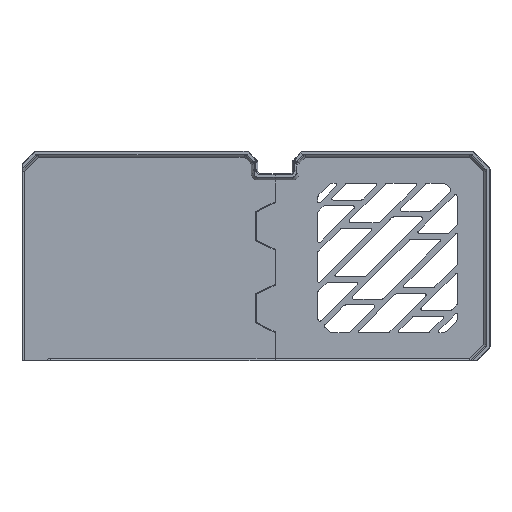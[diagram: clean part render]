
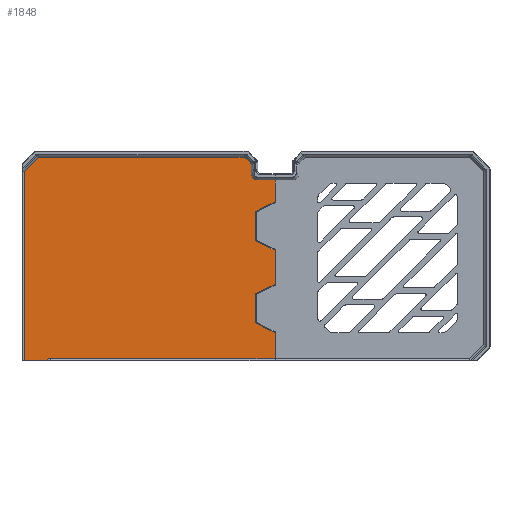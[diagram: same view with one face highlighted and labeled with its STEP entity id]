
A CAD part, top view. The second image highlights one B-rep face of the part: STEP entity #1848.
In plain terms, the highlighted planar face has unit normal (0, 0, 1).
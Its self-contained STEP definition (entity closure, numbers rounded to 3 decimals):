
#26=DIRECTION('',(-0.894,0.447,0.));
#27=VECTOR('',#26,11.655);
#28=CARTESIAN_POINT('',(135.3,59.126,-4.));
#29=LINE('',#28,#27);
#30=DIRECTION('',(0.,1.,0.));
#31=VECTOR('',#30,18.051);
#32=CARTESIAN_POINT('',(135.3,41.074,-4.));
#33=LINE('',#32,#31);
#34=DIRECTION('',(0.894,0.447,0.));
#35=VECTOR('',#34,11.655);
#36=CARTESIAN_POINT('',(124.876,35.862,-4.));
#37=LINE('',#36,#35);
#38=DIRECTION('',(0.,1.,0.));
#39=VECTOR('',#38,15.524);
#40=CARTESIAN_POINT('',(124.876,20.338,-4.));
#41=LINE('',#40,#39);
#42=DIRECTION('',(-0.894,0.447,0.));
#43=VECTOR('',#42,11.655);
#44=CARTESIAN_POINT('',(135.3,15.126,-4.));
#45=LINE('',#44,#43);
#46=DIRECTION('',(0.,1.,0.));
#47=VECTOR('',#46,13.909);
#48=CARTESIAN_POINT('',(135.3,1.217,-4.));
#49=LINE('',#48,#47);
#50=DIRECTION('',(-1.,0.,0.));
#51=VECTOR('',#50,120.81);
#52=CARTESIAN_POINT('',(135.3,1.217,-4.));
#53=LINE('',#52,#51);
#54=CARTESIAN_POINT('',(14.49,1.217,-4.));
#55=CARTESIAN_POINT('',(14.254,1.217,-4.));
#56=CARTESIAN_POINT('',(13.926,1.074,-4.));
#57=CARTESIAN_POINT('',(13.783,0.746,-4.));
#58=CARTESIAN_POINT('',(13.783,0.51,-4.));
#60=DIRECTION('',(0.,-1.,0.));
#61=VECTOR('',#60,0.51);
#62=CARTESIAN_POINT('',(13.783,0.51,-4.));
#63=LINE('',#62,#61);
#64=CARTESIAN_POINT('',(1.217,100.896,-4.));
#65=CARTESIAN_POINT('',(1.217,101.296,-4.));
#66=CARTESIAN_POINT('',(1.359,101.637,-4.));
#67=CARTESIAN_POINT('',(1.641,101.92,-4.));
#69=DIRECTION('',(0.707,0.707,0.));
#70=VECTOR('',#69,9.106);
#71=CARTESIAN_POINT('',(1.641,101.92,-4.));
#72=LINE('',#71,#70);
#73=CARTESIAN_POINT('',(8.08,108.359,-4.));
#74=CARTESIAN_POINT('',(8.363,108.641,-4.));
#75=CARTESIAN_POINT('',(8.704,108.783,-4.));
#76=CARTESIAN_POINT('',(9.104,108.783,-4.));
#78=DIRECTION('',(1.,0.,0.));
#79=VECTOR('',#78,109.592);
#80=CARTESIAN_POINT('',(9.104,108.783,-4.));
#81=LINE('',#80,#79);
#82=CARTESIAN_POINT('',(118.696,108.783,-4.));
#83=CARTESIAN_POINT('',(119.096,108.783,-4.));
#84=CARTESIAN_POINT('',(119.437,108.641,-4.));
#85=CARTESIAN_POINT('',(119.72,108.359,-4.));
#87=DIRECTION('',(0.707,-0.707,0.));
#88=VECTOR('',#87,3.507);
#89=CARTESIAN_POINT('',(119.72,108.359,-4.));
#90=LINE('',#89,#88);
#91=CARTESIAN_POINT('',(122.2,105.879,-4.));
#92=CARTESIAN_POINT('',(122.455,105.624,-4.));
#93=CARTESIAN_POINT('',(122.583,105.315,-4.));
#94=CARTESIAN_POINT('',(122.583,104.954,-4.));
#96=DIRECTION('',(0.,-1.,0.));
#97=VECTOR('',#96,4.954);
#98=CARTESIAN_POINT('',(122.583,104.954,-4.));
#99=LINE('',#98,#97);
#100=CARTESIAN_POINT('',(125.8,100.,-4.));
#101=DIRECTION('',(0.,0.,1.));
#102=DIRECTION('',(-1.,0.,0.));
#103=AXIS2_PLACEMENT_3D('',#100,#101,#102);
#105=DIRECTION('',(1.,0.,0.));
#106=VECTOR('',#105,9.5);
#107=CARTESIAN_POINT('',(125.8,96.783,-4.));
#108=LINE('',#107,#106);
#109=DIRECTION('',(0.,1.,0.));
#110=VECTOR('',#109,11.709);
#111=CARTESIAN_POINT('',(135.3,85.074,-4.));
#112=LINE('',#111,#110);
#113=DIRECTION('',(0.894,0.447,0.));
#114=VECTOR('',#113,11.655);
#115=CARTESIAN_POINT('',(124.876,79.862,-4.));
#116=LINE('',#115,#114);
#117=DIRECTION('',(0.,1.,0.));
#118=VECTOR('',#117,15.524);
#119=CARTESIAN_POINT('',(124.876,64.338,-4.));
#120=LINE('',#119,#118);
#197=DIRECTION('',(1.,0.,0.));
#198=VECTOR('',#197,12.566);
#199=CARTESIAN_POINT('',(1.217,0.,-4.));
#200=LINE('',#199,#198);
#1427=DIRECTION('',(0.,-1.,0.));
#1428=VECTOR('',#1427,100.896);
#1429=CARTESIAN_POINT('',(1.217,100.896,-4.));
#1430=LINE('',#1429,#1428);
#1452=CARTESIAN_POINT('',(1.217,0.,-4.));
#1453=VERTEX_POINT('',#1452);
#1454=CARTESIAN_POINT('',(13.783,0.,
-4.));
#1455=VERTEX_POINT('',#1454);
#1609=CARTESIAN_POINT('',(14.49,1.217,-4.));
#1610=VERTEX_POINT('',#1609);
#1611=CARTESIAN_POINT('',(13.783,0.51,
-4.));
#1612=VERTEX_POINT('',#1611);
#1613=VERTEX_POINT('',#91);
#1614=VERTEX_POINT('',#94);
#1615=CARTESIAN_POINT('',(122.583,100.,-4.));
#1616=VERTEX_POINT('',#1615);
#1617=CARTESIAN_POINT('',(125.8,96.783,-4.));
#1618=VERTEX_POINT('',#1617);
#1619=CARTESIAN_POINT('',(1.217,100.896,-4.));
#1620=VERTEX_POINT('',#1619);
#1621=VERTEX_POINT('',#67);
#1622=CARTESIAN_POINT('',(8.08,108.359,-4.));
#1623=VERTEX_POINT('',#1622);
#1624=VERTEX_POINT('',#76);
#1625=CARTESIAN_POINT('',(118.696,108.783,-4.));
#1626=VERTEX_POINT('',#1625);
#1627=VERTEX_POINT('',#85);
#1693=CARTESIAN_POINT('',(135.3,1.217,-4.));
#1694=VERTEX_POINT('',#1693);
#1701=CARTESIAN_POINT('',(135.3,96.783,-4.));
#1702=VERTEX_POINT('',#1701);
#1703=CARTESIAN_POINT('',(135.3,59.126,-4.));
#1704=CARTESIAN_POINT('',(124.876,64.338,-4.));
#1705=VERTEX_POINT('',#1703);
#1706=VERTEX_POINT('',#1704);
#1707=CARTESIAN_POINT('',(124.876,79.862,-4.));
#1708=VERTEX_POINT('',#1707);
#1709=CARTESIAN_POINT('',(135.3,85.074,-4.));
#1710=VERTEX_POINT('',#1709);
#1711=CARTESIAN_POINT('',(135.3,15.126,-4.));
#1712=CARTESIAN_POINT('',(124.876,20.338,-4.));
#1713=VERTEX_POINT('',#1711);
#1714=VERTEX_POINT('',#1712);
#1715=CARTESIAN_POINT('',(124.876,35.862,-4.));
#1716=VERTEX_POINT('',#1715);
#1717=CARTESIAN_POINT('',(135.3,41.074,-4.));
#1718=VERTEX_POINT('',#1717);
#1796=CARTESIAN_POINT('',(0.,0.,-4.));
#1797=DIRECTION('',(0.,0.,1.));
#1798=DIRECTION('',(1.,0.,0.));
#1799=AXIS2_PLACEMENT_3D('',#1796,#1797,#1798);
#1800=PLANE('',#1799);
#1802=ORIENTED_EDGE('',*,*,#1801,.F.);
#1803=ORIENTED_EDGE('',*,*,#1756,.F.);
#1805=ORIENTED_EDGE('',*,*,#1804,.F.);
#1807=ORIENTED_EDGE('',*,*,#1806,.F.);
#1809=ORIENTED_EDGE('',*,*,#1808,.F.);
#1810=ORIENTED_EDGE('',*,*,#1785,.F.);
#1812=ORIENTED_EDGE('',*,*,#1811,.T.);
#1814=ORIENTED_EDGE('',*,*,#1813,.T.);
#1816=ORIENTED_EDGE('',*,*,#1815,.T.);
#1818=ORIENTED_EDGE('',*,*,#1817,.F.);
#1820=ORIENTED_EDGE('',*,*,#1819,.F.);
#1822=ORIENTED_EDGE('',*,*,#1821,.T.);
#1824=ORIENTED_EDGE('',*,*,#1823,.T.);
#1826=ORIENTED_EDGE('',*,*,#1825,.T.);
#1828=ORIENTED_EDGE('',*,*,#1827,.T.);
#1830=ORIENTED_EDGE('',*,*,#1829,.T.);
#1832=ORIENTED_EDGE('',*,*,#1831,.T.);
#1834=ORIENTED_EDGE('',*,*,#1833,.T.);
#1836=ORIENTED_EDGE('',*,*,#1835,.T.);
#1838=ORIENTED_EDGE('',*,*,#1837,.T.);
#1840=ORIENTED_EDGE('',*,*,#1839,.T.);
#1841=ORIENTED_EDGE('',*,*,#1764,.F.);
#1843=ORIENTED_EDGE('',*,*,#1842,.F.);
#1845=ORIENTED_EDGE('',*,*,#1844,.F.);
#1846=EDGE_LOOP('',(#1802,#1803,#1805,#1807,#1809,#1810,#1812,#1814,#1816,#1818,
#1820,#1822,#1824,#1826,#1828,#1830,#1832,#1834,#1836,#1838,#1840,#1841,#1843,
#1845));
#1847=FACE_OUTER_BOUND('',#1846,.F.);
#1848=ADVANCED_FACE('',(#1847),#1800,.T.);
#59=B_SPLINE_CURVE_WITH_KNOTS('',3,(#54,#55,#56,#57,#58),.UNSPECIFIED.,.F.,.F.,(
4,1,4),(0.,0.5,1.),.UNSPECIFIED.);
#68=B_SPLINE_CURVE_WITH_KNOTS('',3,(#64,#65,#66,#67),.UNSPECIFIED.,.F.,.F.,(4,
4),(0.,1.),.UNSPECIFIED.);
#77=B_SPLINE_CURVE_WITH_KNOTS('',3,(#73,#74,#75,#76),.UNSPECIFIED.,.F.,.F.,(4,
4),(0.,1.),.UNSPECIFIED.);
#86=B_SPLINE_CURVE_WITH_KNOTS('',3,(#82,#83,#84,#85),.UNSPECIFIED.,.F.,.F.,(4,
4),(0.,1.),.UNSPECIFIED.);
#95=B_SPLINE_CURVE_WITH_KNOTS('',3,(#91,#92,#93,#94),.UNSPECIFIED.,.F.,.F.,(4,
4),(0.,1.),.UNSPECIFIED.);
#104=CIRCLE('',#103,3.217);
#1756=EDGE_CURVE('',#1718,#1705,#33,.T.);
#1764=EDGE_CURVE('',#1710,#1702,#112,.T.);
#1785=EDGE_CURVE('',#1694,#1713,#49,.T.);
#1801=EDGE_CURVE('',#1705,#1706,#29,.T.);
#1804=EDGE_CURVE('',#1716,#1718,#37,.T.);
#1806=EDGE_CURVE('',#1714,#1716,#41,.T.);
#1808=EDGE_CURVE('',#1713,#1714,#45,.T.);
#1811=EDGE_CURVE('',#1694,#1610,#53,.T.);
#1813=EDGE_CURVE('',#1610,#1612,#59,.T.);
#1815=EDGE_CURVE('',#1612,#1455,#63,.T.);
#1817=EDGE_CURVE('',#1453,#1455,#200,.T.);
#1819=EDGE_CURVE('',#1620,#1453,#1430,.T.);
#1821=EDGE_CURVE('',#1620,#1621,#68,.T.);
#1823=EDGE_CURVE('',#1621,#1623,#72,.T.);
#1825=EDGE_CURVE('',#1623,#1624,#77,.T.);
#1827=EDGE_CURVE('',#1624,#1626,#81,.T.);
#1829=EDGE_CURVE('',#1626,#1627,#86,.T.);
#1831=EDGE_CURVE('',#1627,#1613,#90,.T.);
#1833=EDGE_CURVE('',#1613,#1614,#95,.T.);
#1835=EDGE_CURVE('',#1614,#1616,#99,.T.);
#1837=EDGE_CURVE('',#1616,#1618,#104,.T.);
#1839=EDGE_CURVE('',#1618,#1702,#108,.T.);
#1842=EDGE_CURVE('',#1708,#1710,#116,.T.);
#1844=EDGE_CURVE('',#1706,#1708,#120,.T.);
